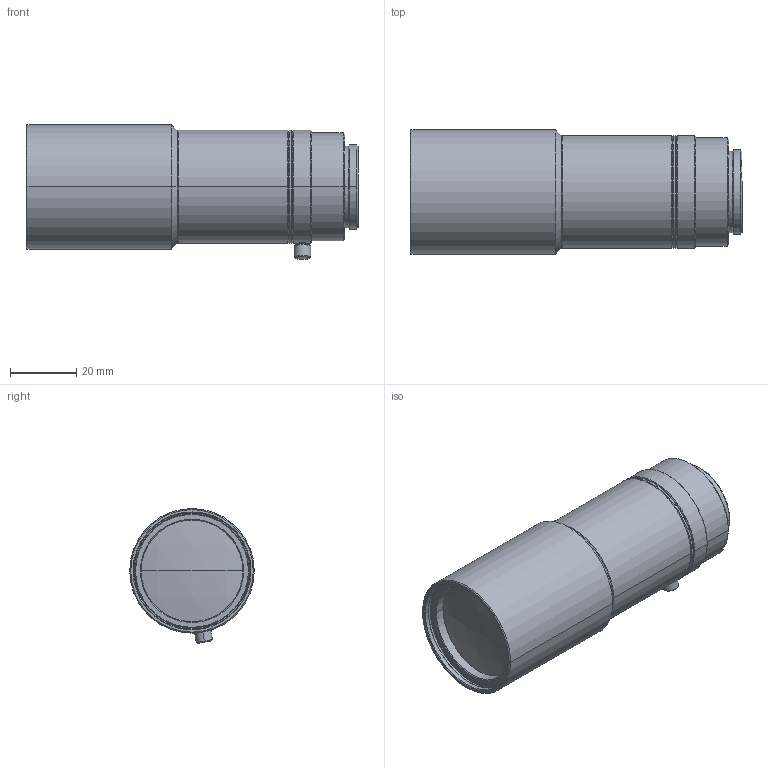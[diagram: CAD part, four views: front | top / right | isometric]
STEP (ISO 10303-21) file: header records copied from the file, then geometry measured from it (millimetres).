
FILE_DESCRIPTION (( 'STEP AP203' ), '1' );
FILE_NAME ('VS-TCT05-65_S.STEP', '2016-08-30T07:16:11', ( '' ), ( '' ), 'SwSTEP 2.0', 'SolidWorks 2016', '' );
FILE_SCHEMA (( 'CONFIG_CONTROL_DESIGN' ));
Length unit declared in the file: millimetre
Products named in the file (1): VS-TCT05-65_S
Bounding box: 99.97 x 37.5 x 40.6 mm (x, y, z)
Volume: 90096.8 mm3; surface area: 15530.5 mm2
Topology: 2 solids, 2 shells, 113 faces, 222 edges, 128 vertices
Faces by surface type: cone 56, cylinder 36, plane 17, sphere 4
Entity records: 2961 total; most frequent: DIRECTION 580, CARTESIAN_POINT 464, ORIENTED_EDGE 444, AXIS2_PLACEMENT_3D 244, EDGE_CURVE 222, CIRCLE 130, VERTEX_POINT 128, EDGE_LOOP 128
